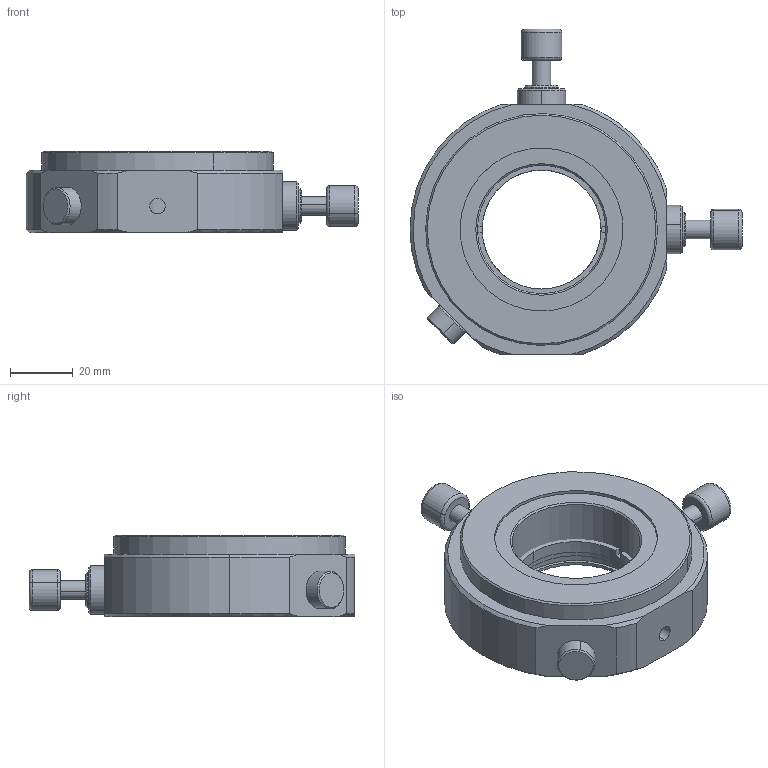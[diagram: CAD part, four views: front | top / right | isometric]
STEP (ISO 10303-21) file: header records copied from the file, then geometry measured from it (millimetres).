
FILE_DESCRIPTION (( 'STEP AP203' ), '1' );
FILE_NAME ('7MML740謗峎覃淕芵噩殤.STEP', '2019-12-04T03:32:41', ( '' ), ( '' ), 'SwSTEP 2.0', 'SolidWorks 2018', '' );
FILE_SCHEMA (( 'CONFIG_CONTROL_DESIGN' ));
Length unit declared in the file: millimetre
Products named in the file (1): 7MML740謗峎覃淕芵噩殤
Bounding box: 106 x 104 x 26 mm (x, y, z)
Volume: 88336.3 mm3; surface area: 44783.3 mm2
Topology: 14 solids, 14 shells, 255 faces, 553 edges, 344 vertices
Faces by surface type: cylinder 110, cone 68, plane 65, torus 8, sphere 4
Entity records: 7336 total; most frequent: CARTESIAN_POINT 1507, DIRECTION 1329, ORIENTED_EDGE 1082, AXIS2_PLACEMENT_3D 564, EDGE_CURVE 541, VERTEX_POINT 340, CIRCLE 308, EDGE_LOOP 307
